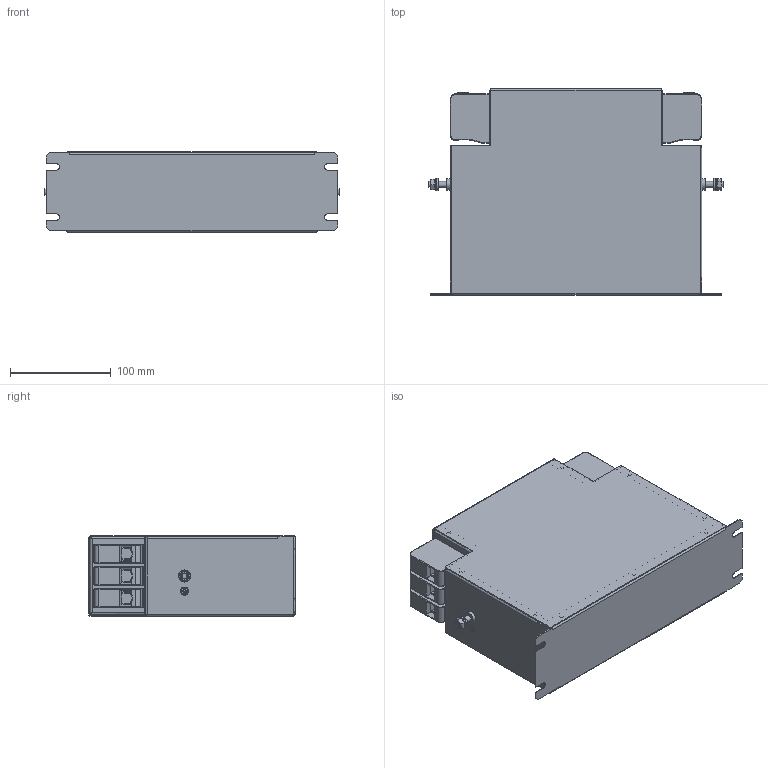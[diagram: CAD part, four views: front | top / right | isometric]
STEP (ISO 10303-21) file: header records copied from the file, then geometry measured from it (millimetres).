
FILE_DESCRIPTION(/* description */ ('raw material description'),/* implementation_level */ '2;1');
FILE_NAME(/* name */ 'C:\Users\Oliver.Volic\OneDrive - Schaffner EMV AG\Projekte\STEP\Wanda\FN3288-80-34..stp',/* time_stamp */ '2018-06-27T15:40:22+02:00',/* author */ ('Oliver.Volic'),/* organization */ ('Schaffner EMV AG'),/* preprocessor_version */ 'ST-DEVELOPER v16.5',/* originating_system */ 'Autodesk Inventor 2017',/* authorisation */ '');
FILE_SCHEMA (('AUTOMOTIVE_DESIGN { 1 0 10303 214 3 1 1 }'));
Length unit declared in the file: millimetre
Products named in the file (1): FN3288-80-34.
Bounding box: 294.4 x 205.05 x 80 mm (x, y, z)
Volume: 440288.8 mm3; surface area: 385983 mm2
Topology: 1 solids, 1 shells, 1554 faces, 3704 edges, 2112 vertices
Faces by surface type: plane 743, cylinder 513, sphere 120, bspline 90, torus 66, cone 22
Full cylindrical faces by diameter (mm): 3.3 x13, 4.82 x4, 5.459 x2, 6 x4, 6.4 x2, 7 x8, 8 x4, 8.7 x2, 11.05 x2, 11.6 x6, 12 x2
Entity records: 46336 total; most frequent: CARTESIAN_POINT 9649, DIRECTION 7528, ORIENTED_EDGE 7038, EDGE_CURVE 3511, AXIS2_PLACEMENT_3D 2684, LINE 2160, VECTOR 2160, VERTEX_POINT 2098
